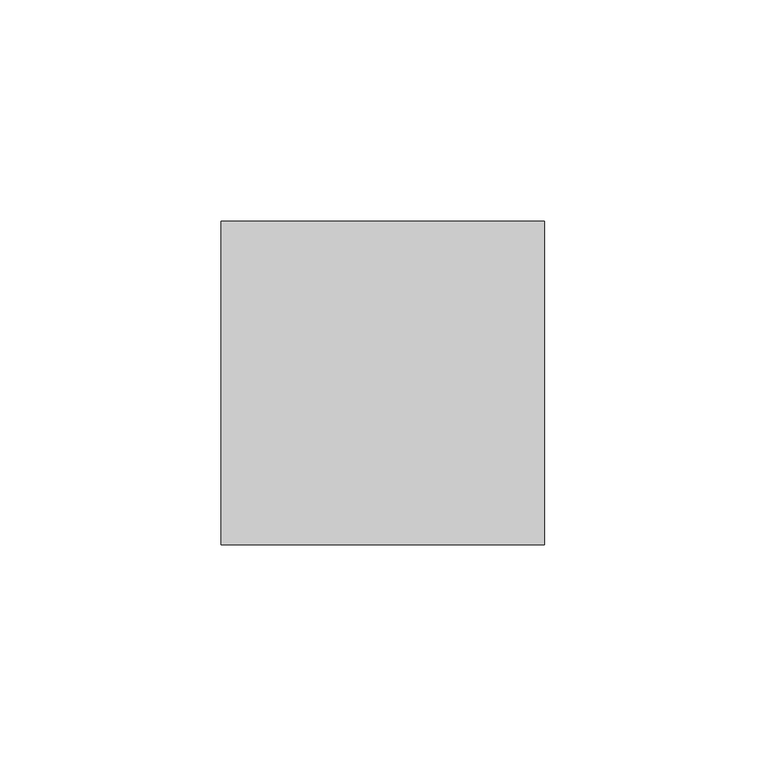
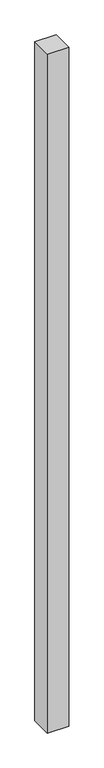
"""IFC4 building model written with IfcOpenShell, lengths in millimetres: proxy geometry, PerfilCanto_Blufab : Parede Geral - Largura 60 cm."""

from ifc_helpers import new_model, si_unit, origin, origin_with_axes, place, context, project, spatial, polyline, outline, extrude, source, transform, mapped, element, save


def generic_models_87e237a0(model_context):
    return source(origin(), model_context, "Body", "SweptSolid", [
        extrude(outline(polyline([(73.0, 73.0), (73.0, 0.0), (0.0, 0.0), (0.0, 73.0), (73.0, 73.0)])), origin_with_axes(), (0.0, 0.0, 1.0), 2450.0),
    ])


if __name__ == "__main__":
    model = new_model("IFC4")
    model_context = context("Model", 3, world=origin())
    ifc_project = project(units=[si_unit("LENGTHUNIT", "METRE", prefix="MILLI")], contexts=[model_context])
    site = spatial("IfcSite", under=ifc_project)
    building = spatial("IfcBuilding", under=site)
    placement = place(None, origin())
    generic_models_shape = generic_models_87e237a0(model_context)
    element("IfcBuildingElementProxy", 1, Name="PerfilCanto_Blufab : Parede Geral - Largura 60 cm", ObjectType="PerfilCanto_Blufab : Parede Geral - Largura 60 cm", at=placement, inside=building, context=model_context, shape_type="MappedRepresentation", body=[
        mapped(generic_models_shape, transform((0.0, 0.0, 0.0), x_axis=(1.0, 0.0, 0.0), y_axis=(0.0, 1.0, 0.0), z_axis=(0.0, 0.0, 1.0))),
    ])
    save(model, "model.ifc")
